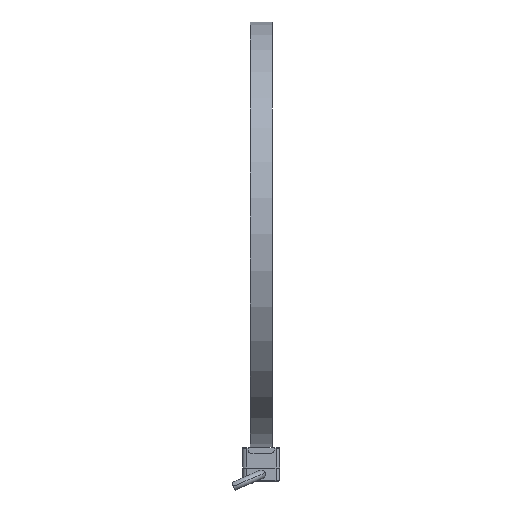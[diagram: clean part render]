
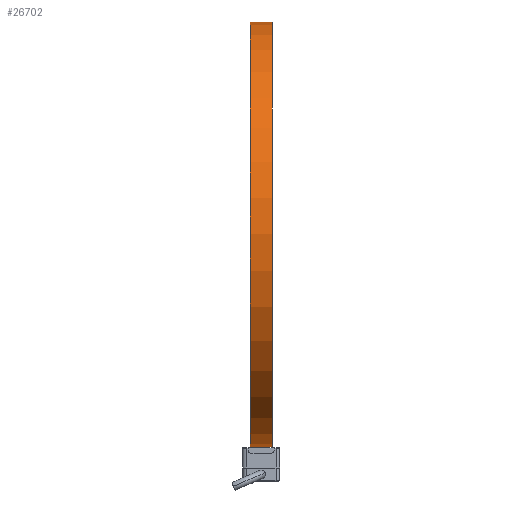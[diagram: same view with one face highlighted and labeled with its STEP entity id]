
A CAD part, left-side view. The second image highlights one B-rep face of the part: STEP entity #26702.
In plain terms, the highlighted cylindrical face has radius 114.4 mm (diameter 228.8 mm), a partial arc.
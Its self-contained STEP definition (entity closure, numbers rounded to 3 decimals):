
#2545 = CIRCLE ( 'NONE', #16035, 114.4 ) ;
#4332 = ORIENTED_EDGE ( 'NONE', *, *, #102221, .T. ) ;
#6989 = CIRCLE ( 'NONE', #27460, 114.4 ) ;
#7078 = EDGE_CURVE ( 'NONE', #43352, #46939, #95695, .T. ) ;
#7646 = DIRECTION ( 'NONE',  ( 0., -1., 0. ) ) ;
#10012 = DIRECTION ( 'NONE',  ( 0., -1., 0. ) ) ;
#11622 = CARTESIAN_POINT ( 'NONE',  ( 0., 0., -114.4 ) ) ;
#16035 = AXIS2_PLACEMENT_3D ( 'NONE', #66019, #50541, #75604 ) ;
#16843 = ORIENTED_EDGE ( 'NONE', *, *, #36401, .F. ) ;
#21196 = DIRECTION ( 'NONE',  ( 0., -1., 0. ) ) ;
#24116 = CARTESIAN_POINT ( 'NONE',  ( 0., 12., -114.4 ) ) ;
#26702 = ADVANCED_FACE ( 'NONE', ( #97482 ), #95402, .T. ) ;
#27460 = AXIS2_PLACEMENT_3D ( 'NONE', #34523, #10012, #82554 ) ;
#28932 = AXIS2_PLACEMENT_3D ( 'NONE', #38832, #32365, #80966 ) ;
#32365 = DIRECTION ( 'NONE',  ( 0., -1., 0. ) ) ;
#34523 = CARTESIAN_POINT ( 'NONE',  ( 0., 0., 0. ) ) ;
#36401 = EDGE_CURVE ( 'NONE', #46939, #83383, #6989, .T. ) ;
#38832 = CARTESIAN_POINT ( 'NONE',  ( 0., 0., 0. ) ) ;
#43352 = VERTEX_POINT ( 'NONE', #94583 ) ;
#44187 = ORIENTED_EDGE ( 'NONE', *, *, #7078, .F. ) ;
#46939 = VERTEX_POINT ( 'NONE', #65522 ) ;
#50541 = DIRECTION ( 'NONE',  ( 0., -1., 0. ) ) ;
#53647 = ORIENTED_EDGE ( 'NONE', *, *, #54566, .T. ) ;
#54566 = EDGE_CURVE ( 'NONE', #58994, #83383, #67694, .T. ) ;
#56694 = CARTESIAN_POINT ( 'NONE',  ( 0., 0., 114.4 ) ) ;
#58653 = EDGE_LOOP ( 'NONE', ( #44187, #4332, #53647, #16843 ) ) ;
#58994 = VERTEX_POINT ( 'NONE', #24116 ) ;
#65522 = CARTESIAN_POINT ( 'NONE',  ( 0., 0., 114.4 ) ) ;
#66019 = CARTESIAN_POINT ( 'NONE',  ( 0., 12., 0. ) ) ;
#67694 = LINE ( 'NONE', #11622, #85868 ) ;
#75604 = DIRECTION ( 'NONE',  ( 0., 0., -1. ) ) ;
#78026 = VECTOR ( 'NONE', #7646, 1000. ) ;
#80966 = DIRECTION ( 'NONE',  ( 0., 0., -1. ) ) ;
#82554 = DIRECTION ( 'NONE',  ( 0., 0., -1. ) ) ;
#83383 = VERTEX_POINT ( 'NONE', #88542 ) ;
#85868 = VECTOR ( 'NONE', #21196, 1000. ) ;
#88542 = CARTESIAN_POINT ( 'NONE',  ( 0., 0., -114.4 ) ) ;
#94583 = CARTESIAN_POINT ( 'NONE',  ( 0., 12., 114.4 ) ) ;
#95402 = CYLINDRICAL_SURFACE ( 'NONE', #28932, 114.4 ) ;
#95695 = LINE ( 'NONE', #56694, #78026 ) ;
#97482 = FACE_OUTER_BOUND ( 'NONE', #58653, .T. ) ;
#102221 = EDGE_CURVE ( 'NONE', #43352, #58994, #2545, .T. ) ;
